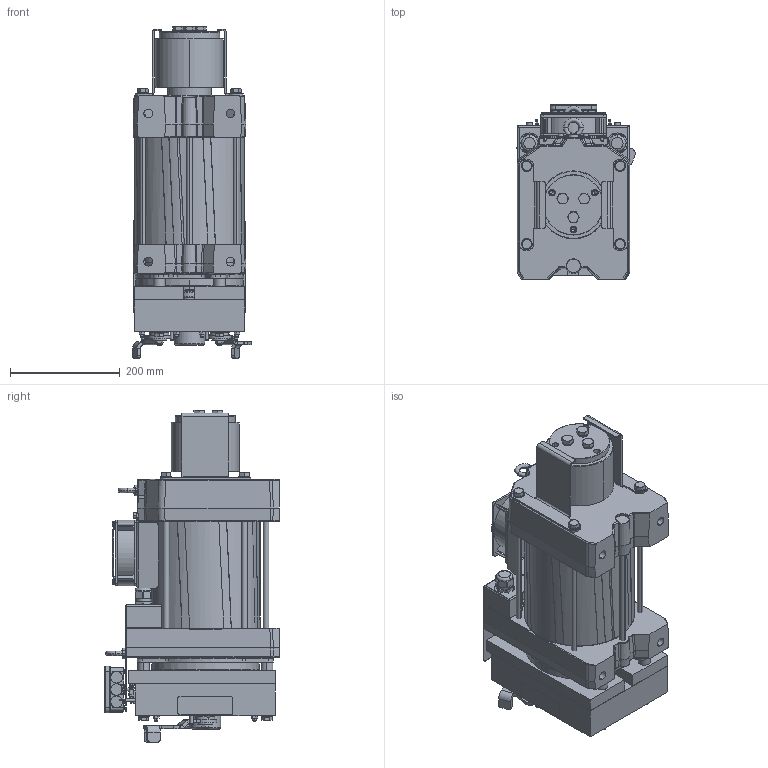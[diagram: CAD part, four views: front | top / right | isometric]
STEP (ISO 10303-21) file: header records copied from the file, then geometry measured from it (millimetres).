
FILE_DESCRIPTION((''),'2;1');
FILE_NAME('00363793_ASM','2020-06-05T',('furlanis'),('Sicor spa'),'CREO PARAMETRIC BY PTC INC, 2017170','CREO PARAMETRIC BY PTC INC, 2017170','');
FILE_SCHEMA(('CONFIG_CONTROL_DESIGN'));
Products named in the file (7): SW07; 120_90; 120; 00073486; GROWER_M12_GRO0002; TEM12X60_VIT0132; 00363793_ASM
Assembly tree (11 placements, depth 2):
  00363793_ASM
    SW07
    120_90
    120  x2
    00073486
    GROWER_M12_GRO0002  x3
    TEM12X60_VIT0132  x3
Bounding box: 215.92 x 318.5 x 605.38 mm (x, y, z)
Volume: 892713.5 mm3; surface area: 1714695.5 mm2
Topology: 10 solids, 315 shells, 4893 faces, 14804 edges, 9931 vertices
Faces by surface type: cylinder 1578, plane 1328, bspline 1031, torus 510, cone 400, sphere 44, revolution 2
Entity records: 268465 total; most frequent: CARTESIAN_POINT 151440, ORIENTED_EDGE 23656, DIRECTION 21996, EDGE_CURVE 14510, VERTEX_POINT 9783, AXIS2_PLACEMENT_3D 8200, VECTOR 5594, LINE 5594
